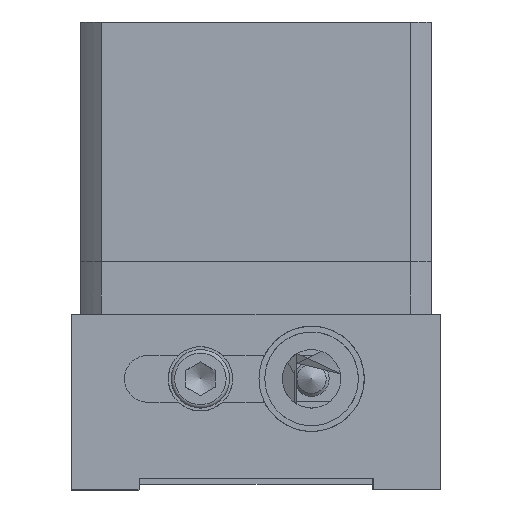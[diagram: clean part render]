
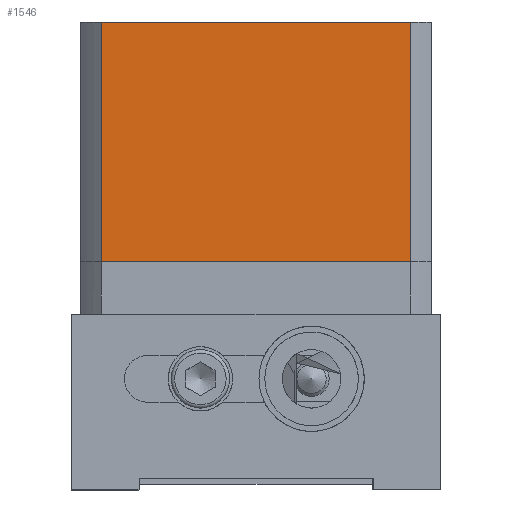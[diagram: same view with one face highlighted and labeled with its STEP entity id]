
A CAD part, left-side view. The second image highlights one B-rep face of the part: STEP entity #1546.
In plain terms, the highlighted planar face has unit normal (-1, 0, 0).
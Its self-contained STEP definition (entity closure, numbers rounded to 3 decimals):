
#280=CARTESIAN_POINT('',(-30.,3.542,-41.));
#281=VERTEX_POINT('',#280);
#289=CARTESIAN_POINT('',(-30.,56.458,-41.));
#290=VERTEX_POINT('',#289);
#291=CARTESIAN_POINT('',(-30.0,56.458,-41.));
#292=DIRECTION('',(0.0,-1.0,0.0));
#293=VECTOR('',#292,52.915);
#294=LINE('',#291,#293);
#295=EDGE_CURVE('',#290,#281,#294,.T.);
#587=CARTESIAN_POINT('',(-30.,56.458,0.0));
#588=VERTEX_POINT('',#587);
#596=CARTESIAN_POINT('',(-30.,3.542,0.0));
#597=VERTEX_POINT('',#596);
#598=CARTESIAN_POINT('',(-30.0,56.458,0.0));
#599=DIRECTION('',(0.0,-1.0,0.0));
#600=VECTOR('',#599,52.915);
#601=LINE('',#598,#600);
#602=EDGE_CURVE('',#588,#597,#601,.T.);
#1441=CARTESIAN_POINT('',(-30.,3.542,0.0));
#1442=DIRECTION('',(0.0,0.0,-1.0));
#1443=VECTOR('',#1442,41.);
#1444=LINE('',#1441,#1443);
#1445=EDGE_CURVE('',#597,#281,#1444,.T.);
#1524=CARTESIAN_POINT('',(-30.,56.458,0.0));
#1525=DIRECTION('',(0.0,0.0,-1.0));
#1526=VECTOR('',#1525,41.);
#1527=LINE('',#1524,#1526);
#1528=EDGE_CURVE('',#588,#290,#1527,.T.);
#1535=CARTESIAN_POINT('',(-30.,56.458,0.0));
#1536=DIRECTION('',(-1.0,0.0,0.0));
#1537=DIRECTION('',(0.0,0.0,1.0));
#1538=AXIS2_PLACEMENT_3D('',#1535,#1536,#1537);
#1539=PLANE('',#1538);
#1540=ORIENTED_EDGE('',*,*,#295,.T.);
#1541=ORIENTED_EDGE('',*,*,#1445,.F.);
#1542=ORIENTED_EDGE('',*,*,#602,.F.);
#1543=ORIENTED_EDGE('',*,*,#1528,.T.);
#1544=EDGE_LOOP('',(#1540,#1541,#1542,#1543));
#1545=FACE_OUTER_BOUND('',#1544,.T.);
#1546=ADVANCED_FACE('',(#1545),#1539,.T.);
